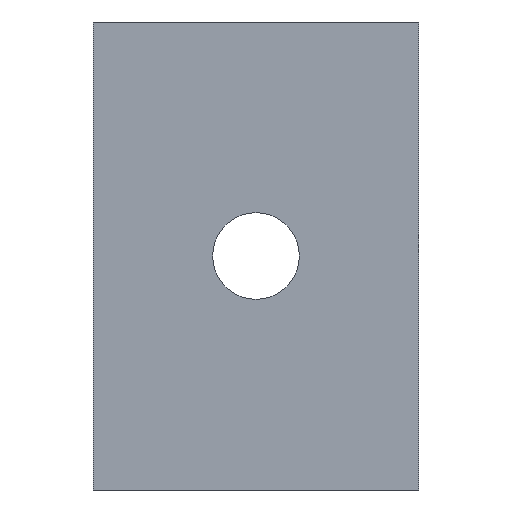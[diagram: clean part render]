
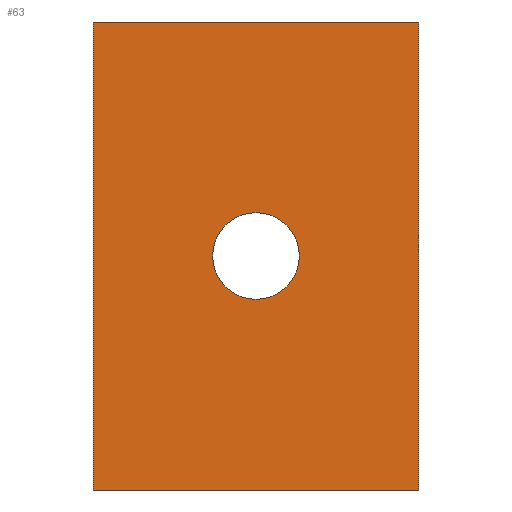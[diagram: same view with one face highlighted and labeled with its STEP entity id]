
A CAD part, front view. The second image highlights one B-rep face of the part: STEP entity #63.
In plain terms, the highlighted planar face has unit normal (0, -1, 0).
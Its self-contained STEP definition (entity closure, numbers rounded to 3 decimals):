
#2 = VECTOR ( 'NONE', #218, 1000. ) ;
#6 = FACE_OUTER_BOUND ( 'NONE', #45, .T. ) ;
#15 = CARTESIAN_POINT ( 'NONE',  ( 172., 0., -247. ) ) ;
#21 = EDGE_CURVE ( 'NONE', #187, #178, #259, .T. ) ;
#24 = ORIENTED_EDGE ( 'NONE', *, *, #64, .T. ) ;
#34 = CARTESIAN_POINT ( 'NONE',  ( 172., 0., 247. ) ) ;
#42 = ORIENTED_EDGE ( 'NONE', *, *, #267, .T. ) ;
#45 = EDGE_LOOP ( 'NONE', ( #206, #95, #103, #144 ) ) ;
#47 = PLANE ( 'NONE',  #249 ) ;
#49 = CARTESIAN_POINT ( 'NONE',  ( -172., 0., -247. ) ) ;
#59 = AXIS2_PLACEMENT_3D ( 'NONE', #124, #234, #105 ) ;
#63 = ADVANCED_FACE ( 'NONE', ( #6, #86 ), #47, .T. ) ;
#64 = EDGE_CURVE ( 'NONE', #260, #126, #159, .T. ) ;
#66 = CIRCLE ( 'NONE', #273, 45.75 ) ;
#69 = EDGE_LOOP ( 'NONE', ( #24, #42 ) ) ;
#70 = DIRECTION ( 'NONE',  ( 0., 0., 1. ) ) ;
#85 = EDGE_CURVE ( 'NONE', #121, #187, #269, .T. ) ;
#86 = FACE_BOUND ( 'NONE', #69, .T. ) ;
#95 = ORIENTED_EDGE ( 'NONE', *, *, #186, .F. ) ;
#103 = ORIENTED_EDGE ( 'NONE', *, *, #220, .F. ) ;
#105 = DIRECTION ( 'NONE',  ( 0., 0., 1. ) ) ;
#107 = DIRECTION ( 'NONE',  ( 0., 0., -1. ) ) ;
#109 = CARTESIAN_POINT ( 'NONE',  ( 0., 0., 45.75 ) ) ;
#114 = CARTESIAN_POINT ( 'NONE',  ( -172., 0., 247. ) ) ;
#121 = VERTEX_POINT ( 'NONE', #190 ) ;
#124 = CARTESIAN_POINT ( 'NONE',  ( 0., 0., 0. ) ) ;
#126 = VERTEX_POINT ( 'NONE', #109 ) ;
#128 = CARTESIAN_POINT ( 'NONE',  ( 0., 0., 0. ) ) ;
#130 = DIRECTION ( 'NONE',  ( 0., -1., 0. ) ) ;
#144 = ORIENTED_EDGE ( 'NONE', *, *, #21, .F. ) ;
#145 = DIRECTION ( 'NONE',  ( 0., 1., 0. ) ) ;
#149 = DIRECTION ( 'NONE',  ( -1., 0., 0. ) ) ;
#159 = CIRCLE ( 'NONE', #59, 45.75 ) ;
#160 = LINE ( 'NONE', #242, #2 ) ;
#164 = CARTESIAN_POINT ( 'NONE',  ( 0., 0., -45.75 ) ) ;
#169 = DIRECTION ( 'NONE',  ( 0., 0., -1. ) ) ;
#174 = CARTESIAN_POINT ( 'NONE',  ( -172., 0., -247. ) ) ;
#178 = VERTEX_POINT ( 'NONE', #174 ) ;
#186 = EDGE_CURVE ( 'NONE', #230, #121, #213, .T. ) ;
#187 = VERTEX_POINT ( 'NONE', #15 ) ;
#190 = CARTESIAN_POINT ( 'NONE',  ( 172., 0., 247. ) ) ;
#200 = VECTOR ( 'NONE', #169, 1000. ) ;
#206 = ORIENTED_EDGE ( 'NONE', *, *, #85, .F. ) ;
#211 = CARTESIAN_POINT ( 'NONE',  ( 0., 0., 0. ) ) ;
#213 = LINE ( 'NONE', #114, #231 ) ;
#218 = DIRECTION ( 'NONE',  ( 0., 0., 1. ) ) ;
#220 = EDGE_CURVE ( 'NONE', #178, #230, #160, .T. ) ;
#230 = VERTEX_POINT ( 'NONE', #274 ) ;
#231 = VECTOR ( 'NONE', #266, 1000. ) ;
#234 = DIRECTION ( 'NONE',  ( 0., 1., 0. ) ) ;
#242 = CARTESIAN_POINT ( 'NONE',  ( -172., 0., 247. ) ) ;
#249 = AXIS2_PLACEMENT_3D ( 'NONE', #128, #130, #107 ) ;
#253 = VECTOR ( 'NONE', #149, 1000. ) ;
#259 = LINE ( 'NONE', #49, #253 ) ;
#260 = VERTEX_POINT ( 'NONE', #164 ) ;
#266 = DIRECTION ( 'NONE',  ( 1., 0., 0. ) ) ;
#267 = EDGE_CURVE ( 'NONE', #126, #260, #66, .T. ) ;
#269 = LINE ( 'NONE', #34, #200 ) ;
#273 = AXIS2_PLACEMENT_3D ( 'NONE', #211, #145, #70 ) ;
#274 = CARTESIAN_POINT ( 'NONE',  ( -172., 0., 247. ) ) ;
